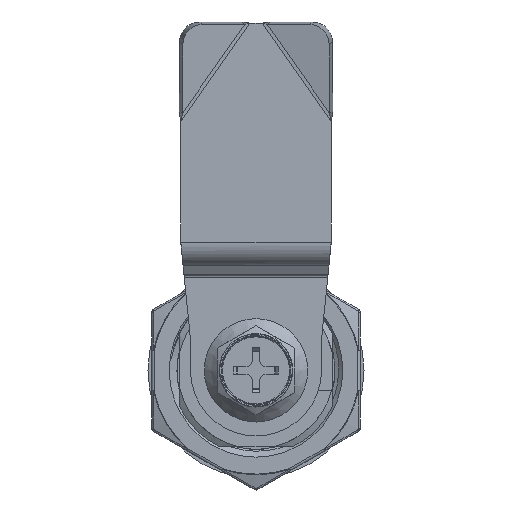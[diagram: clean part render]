
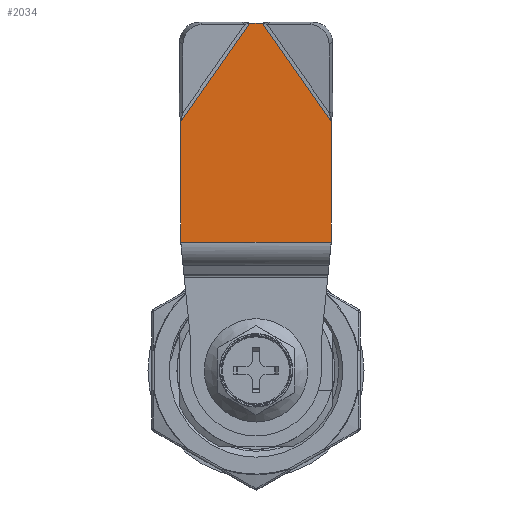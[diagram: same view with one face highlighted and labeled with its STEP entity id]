
A CAD part, front view. The second image highlights one B-rep face of the part: STEP entity #2034.
In plain terms, the highlighted planar face has unit normal (0, -1, 0).
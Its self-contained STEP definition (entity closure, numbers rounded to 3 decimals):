
#1328=PLANE('',#11556);
#2034=ADVANCED_FACE('',(#2780),#1328,.T.);
#2780=FACE_OUTER_BOUND('',#3448,.T.);
#3448=EDGE_LOOP('',(#6639,#6640,#6641,#6642,#6643,#6644));
#6639=ORIENTED_EDGE('',*,*,#9735,.F.);
#6640=ORIENTED_EDGE('',*,*,#9737,.T.);
#6641=ORIENTED_EDGE('',*,*,#9730,.T.);
#6642=ORIENTED_EDGE('',*,*,#9738,.T.);
#6643=ORIENTED_EDGE('',*,*,#9739,.F.);
#6644=ORIENTED_EDGE('',*,*,#9740,.F.);
#8229=VERTEX_POINT('',#275370);
#8231=VERTEX_POINT('',#275373);
#8235=VERTEX_POINT('',#275388);
#8236=VERTEX_POINT('',#275390);
#8237=VERTEX_POINT('',#275396);
#8238=VERTEX_POINT('',#275398);
#9730=EDGE_CURVE('',#8231,#8229,#10568,.T.);
#9735=EDGE_CURVE('',#8235,#8236,#10571,.T.);
#9737=EDGE_CURVE('',#8235,#8231,#10572,.T.);
#9738=EDGE_CURVE('',#8229,#8237,#10573,.T.);
#9739=EDGE_CURVE('',#8238,#8237,#10574,.T.);
#9740=EDGE_CURVE('',#8236,#8238,#10575,.T.);
#10568=LINE('',#275372,#11161);
#10571=LINE('',#275389,#11164);
#10572=LINE('',#275394,#11165);
#10573=LINE('',#275395,#11166);
#10574=LINE('',#275397,#11167);
#10575=LINE('',#275399,#11168);
#11161=VECTOR('',#12854,1.);
#11164=VECTOR('',#12859,1.);
#11165=VECTOR('',#12862,1.);
#11166=VECTOR('',#12863,1.);
#11167=VECTOR('',#12864,1.);
#11168=VECTOR('',#12865,1.);
#11556=AXIS2_PLACEMENT_3D('',#275400,#12866,#12867);
#12854=DIRECTION('',(-1.,0.,0.));
#12859=DIRECTION('',(0.,0.,-1.));
#12862=DIRECTION('',(-0.819,0.,0.574));
#12863=DIRECTION('',(0.,0.,-1.));
#12864=DIRECTION('',(-1.,0.,0.));
#12865=DIRECTION('',(-0.819,0.,-0.574));
#12866=DIRECTION('',(0.,-1.,0.));
#12867=DIRECTION('',(1.,0.,0.));
#275370=CARTESIAN_POINT('',(16.621,-3.,9.75));
#275372=CARTESIAN_POINT('',(45.,-3.,9.75));
#275373=CARTESIAN_POINT('',(32.252,-3.,9.75));
#275388=CARTESIAN_POINT('',(45.,-3.,0.824));
#275389=CARTESIAN_POINT('',(45.,-3.,9.75));
#275390=CARTESIAN_POINT('',(45.,-3.,-0.824));
#275394=CARTESIAN_POINT('',(40.806,-3.,3.76));
#275395=CARTESIAN_POINT('',(16.621,-3.,9.75));
#275396=CARTESIAN_POINT('',(16.621,-3.,-9.75));
#275397=CARTESIAN_POINT('',(45.,-3.,-9.75));
#275398=CARTESIAN_POINT('',(32.252,-3.,-9.75));
#275399=CARTESIAN_POINT('',(49.968,-3.,2.655));
#275400=CARTESIAN_POINT('',(45.,-3.,9.75));
